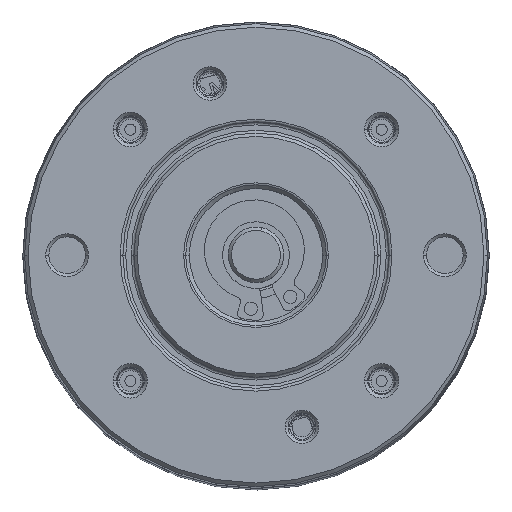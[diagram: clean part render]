
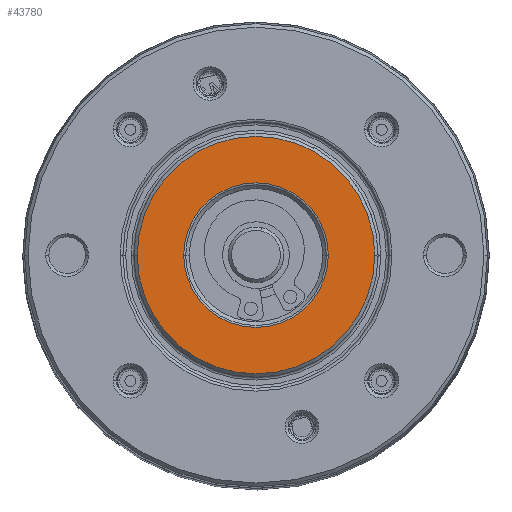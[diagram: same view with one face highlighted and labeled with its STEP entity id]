
A CAD part, top view. The second image highlights one B-rep face of the part: STEP entity #43780.
In plain terms, the highlighted planar face has unit normal (0, 0, 1).
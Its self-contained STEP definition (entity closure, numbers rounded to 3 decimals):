
#1115 = EDGE_CURVE ( 'NONE', #49298, #52465, #3235, .T. ) ;
#1742 = AXIS2_PLACEMENT_3D ( 'NONE', #19281, #3522, #24538 ) ;
#1827 = DIRECTION ( 'NONE',  ( 1., 0., 0. ) ) ;
#2595 = ORIENTED_EDGE ( 'NONE', *, *, #30267, .T. ) ;
#3235 = CIRCLE ( 'NONE', #15588, 10.69 ) ;
#3522 = DIRECTION ( 'NONE',  ( 0., 0., 1. ) ) ;
#4196 = DIRECTION ( 'NONE',  ( 1., 0., 0. ) ) ;
#7419 = FACE_BOUND ( 'NONE', #36940, .T. ) ;
#7704 = DIRECTION ( 'NONE',  ( 1., 0., 0. ) ) ;
#8434 = CARTESIAN_POINT ( 'NONE',  ( 0., 0., 2. ) ) ;
#8948 = CIRCLE ( 'NONE', #14481, 6.507 ) ;
#13285 = AXIS2_PLACEMENT_3D ( 'NONE', #33423, #27079, #1827 ) ;
#13681 = DIRECTION ( 'NONE',  ( 1., 0., 0. ) ) ;
#13742 = AXIS2_PLACEMENT_3D ( 'NONE', #24858, #35746, #4196 ) ;
#14481 = AXIS2_PLACEMENT_3D ( 'NONE', #53603, #48351, #7704 ) ;
#15588 = AXIS2_PLACEMENT_3D ( 'NONE', #8434, #51832, #13681 ) ;
#15846 = CARTESIAN_POINT ( 'NONE',  ( 10.69, 0., 2. ) ) ;
#16572 = CARTESIAN_POINT ( 'NONE',  ( 6.507, 0., 2. ) ) ;
#16587 = CARTESIAN_POINT ( 'NONE',  ( -10.69, 0., 2. ) ) ;
#19281 = CARTESIAN_POINT ( 'NONE',  ( 0., 0., 2. ) ) ;
#19942 = CIRCLE ( 'NONE', #13285, 10.69 ) ;
#24538 = DIRECTION ( 'NONE',  ( 1., 0., 0. ) ) ;
#24858 = CARTESIAN_POINT ( 'NONE',  ( 0., 0., 2. ) ) ;
#25603 = FACE_OUTER_BOUND ( 'NONE', #69033, .T. ) ;
#27079 = DIRECTION ( 'NONE',  ( 0., 0., 1. ) ) ;
#29418 = CIRCLE ( 'NONE', #13742, 6.507 ) ;
#30267 = EDGE_CURVE ( 'NONE', #52465, #49298, #19942, .T. ) ;
#33219 = EDGE_CURVE ( 'NONE', #35345, #38317, #8948, .T. ) ;
#33423 = CARTESIAN_POINT ( 'NONE',  ( 0., 0., 2. ) ) ;
#35345 = VERTEX_POINT ( 'NONE', #16572 ) ;
#35746 = DIRECTION ( 'NONE',  ( 0., 0., -1. ) ) ;
#36940 = EDGE_LOOP ( 'NONE', ( #46512, #45940 ) ) ;
#38317 = VERTEX_POINT ( 'NONE', #40108 ) ;
#40108 = CARTESIAN_POINT ( 'NONE',  ( -6.507, 0., 2. ) ) ;
#43780 = ADVANCED_FACE ( 'NONE', ( #7419, #25603 ), #67894, .T. ) ;
#45940 = ORIENTED_EDGE ( 'NONE', *, *, #48844, .T. ) ;
#46512 = ORIENTED_EDGE ( 'NONE', *, *, #33219, .T. ) ;
#48351 = DIRECTION ( 'NONE',  ( 0., 0., -1. ) ) ;
#48844 = EDGE_CURVE ( 'NONE', #38317, #35345, #29418, .T. ) ;
#49298 = VERTEX_POINT ( 'NONE', #16587 ) ;
#51832 = DIRECTION ( 'NONE',  ( 0., 0., 1. ) ) ;
#52465 = VERTEX_POINT ( 'NONE', #15846 ) ;
#53603 = CARTESIAN_POINT ( 'NONE',  ( 0., 0., 2. ) ) ;
#62857 = ORIENTED_EDGE ( 'NONE', *, *, #1115, .T. ) ;
#67894 = PLANE ( 'NONE',  #1742 ) ;
#69033 = EDGE_LOOP ( 'NONE', ( #62857, #2595 ) ) ;
